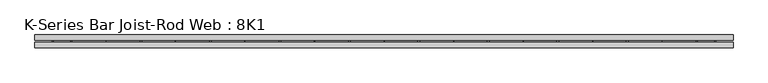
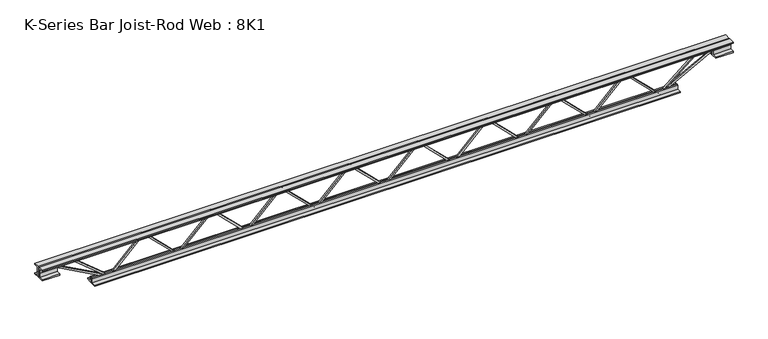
"""IFC4 building model written with IfcOpenShell, lengths in millimetres: beam geometry, K-Series Bar Joist-Rod Web : 8K1."""

from ifc_helpers import new_model, si_unit, frame, origin, place, context, project, spatial, polyline, outline, extrude, source, transform, mapped, element, save


def k_series_bar_joist_rod_web_8k1_ba0566a2(model_context):
    return source(origin(), model_context, "Body", "SweptSolid", [
        extrude(outline(polyline([(-90.4875, 796.4251012), (-100.0125, 796.4251012), (-100.0125, 801.5563895), (90.4875, 994.3126648), (90.4875, 996.7500882), (-100.0125, 1189.5063635), (-100.0125, 1194.6376518), (-90.4875, 1194.6376518), (-90.4875, 1193.4189401), (100.0125, 1000.6626648), (100.0125, 990.4000882), (-90.4875, 797.6438129), (-90.4875, 796.4251012)])), frame((0.0, -4.7625, 0.0), z_axis=(0.0, 1.0, 0.0), x_axis=(0.0, 0.0, 1.0)), (0.0, 0.0, 1.0), 9.525),
        extrude(outline(polyline([(-90.4875, 398.2125506), (-100.0125, 398.2125506), (-100.0125, 403.3438389), (90.4875, 596.1001142), (90.4875, 598.5375376), (-100.0125, 791.2938129), (-100.0125, 796.4251012), (-90.4875, 796.4251012), (-90.4875, 795.2063895), (100.0125, 602.4501142), (100.0125, 592.1875376), (-90.4875, 399.4312623), (-90.4875, 398.2125506)])), frame((0.0, -4.7625, 0.0), z_axis=(0.0, 1.0, 0.0), x_axis=(0.0, 0.0, 1.0)), (0.0, 0.0, 1.0), 9.525),
        extrude(outline(polyline([(-90.4875, 0.0), (-100.0125, 0.0), (-100.0125, 5.1312883), (90.4875, 197.8875636), (90.4875, 200.324987), (-100.0125, 393.0812623), (-100.0125, 398.2125506), (-90.4875, 398.2125506), (-90.4875, 396.9938389), (100.0125, 204.2375636), (100.0125, 193.974987), (-90.4875, 1.2187117), (-90.4875, 0.0)])), frame((0.0, -4.7625, 0.0), z_axis=(0.0, 1.0, 0.0), x_axis=(0.0, 0.0, 1.0)), (0.0, 0.0, 1.0), 9.525),
        extrude(outline(polyline([(-90.4875, -398.2125506), (-100.0125, -398.2125506), (-100.0125, -393.0812623), (90.4875, -200.324987), (90.4875, -197.8875636), (-100.0125, -5.1312883), (-100.0125, 0.0), (-90.4875, 0.0), (-90.4875, -1.2187117), (100.0125, -193.974987), (100.0125, -204.2375636), (-90.4875, -396.9938389), (-90.4875, -398.2125506)])), frame((0.0, -4.7625, 0.0), z_axis=(0.0, 1.0, 0.0), x_axis=(0.0, 0.0, 1.0)), (0.0, 0.0, 1.0), 9.525),
        extrude(outline(polyline([(-90.4875, -796.4251012), (-100.0125, -796.4251012), (-100.0125, -791.2938129), (90.4875, -598.5375376), (90.4875, -596.1001142), (-100.0125, -403.3438389), (-100.0125, -398.2125506), (-90.4875, -398.2125506), (-90.4875, -399.4312623), (100.0125, -592.1875376), (100.0125, -602.4501142), (-90.4875, -795.2063895), (-90.4875, -796.4251012)])), frame((0.0, -4.7625, 0.0), z_axis=(0.0, 1.0, 0.0), x_axis=(0.0, 0.0, 1.0)), (0.0, 0.0, 1.0), 9.525),
        extrude(outline(polyline([(-90.4875, -1194.6376518), (-100.0125, -1194.6376518), (-100.0125, -1189.5063635), (90.4875, -996.7500882), (90.4875, -994.3126648), (-100.0125, -801.5563895), (-100.0125, -796.4251012), (-90.4875, -796.4251012), (-90.4875, -797.6438129), (100.0125, -990.4000882), (100.0125, -1000.6626648), (-90.4875, -1193.4189401), (-90.4875, -1194.6376518)])), frame((0.0, -4.7625, 0.0), z_axis=(0.0, 1.0, 0.0), x_axis=(0.0, 0.0, 1.0)), (0.0, 0.0, 1.0), 9.525),
        extrude(outline(polyline([(-90.4875, 1194.6376518), (-100.0125, 1194.6376518), (-100.0125, 1199.7689401), (90.4875, 1392.5252154), (90.4875, 1394.9626388), (-100.0125, 1587.7189141), (-100.0125, 1592.8502024), (-90.4875, 1592.8502024), (-90.4875, 1591.6314907), (100.0125, 1398.8752154), (100.0125, 1388.6126388), (-90.4875, 1195.8563635), (-90.4875, 1194.6376518)])), frame((0.0, -4.7625, 0.0), z_axis=(0.0, 1.0, 0.0), x_axis=(0.0, 0.0, 1.0)), (0.0, 0.0, 1.0), 9.525),
        extrude(outline(polyline([(-90.4875, -1592.8502024), (-100.0125, -1592.8502024), (-100.0125, -1587.7189141), (90.4875, -1394.9626388), (90.4875, -1392.5252154), (-100.0125, -1199.7689401), (-100.0125, -1194.6376518), (-90.4875, -1194.6376518), (-90.4875, -1195.8563635), (100.0125, -1388.6126388), (100.0125, -1398.8752154), (-90.4875, -1591.6314907), (-90.4875, -1592.8502024)])), frame((0.0, -4.7625, 0.0), z_axis=(0.0, 1.0, 0.0), x_axis=(0.0, 0.0, 1.0)), (0.0, 0.0, 1.0), 9.525),
        extrude(outline(polyline([(4.7625, 101.6), (36.5125, 101.6), (36.5125, 95.25), (11.1125, 95.25), (11.1125, 69.85), (4.7625, 69.85), (4.7625, 101.6)])), frame((-1999.2502024, 0.0, 0.0), z_axis=(1.0, 0.0, 0.0), x_axis=(0.0, 1.0, 0.0)), (0.0, 0.0, 1.0), 3998.5004049),
        extrude(outline(polyline([(-4.7625, 101.6), (-4.7625, 69.85), (-11.1125, 69.85), (-11.1125, 95.25), (-36.5125, 95.25), (-36.5125, 101.6), (-4.7625, 101.6)])), frame((-1999.2502024, 0.0, 0.0), z_axis=(1.0, 0.0, 0.0), x_axis=(0.0, 1.0, 0.0)), (0.0, 0.0, 1.0), 3998.5004049),
        extrude(outline(polyline([(-4.7625, 38.1), (-36.5125, 38.1), (-36.5125, 44.45), (-11.1125, 44.45), (-11.1125, 69.85), (-4.7625, 69.85), (-4.7625, 38.1)])), frame((-1999.2502024, 0.0, 0.0), z_axis=(1.0, 0.0, 0.0), x_axis=(0.0, 1.0, 0.0)), (0.0, 0.0, 1.0), 101.6),
        extrude(outline(polyline([(36.5125, 38.1), (4.7625, 38.1), (4.7625, 69.85), (11.1125, 69.85), (11.1125, 44.45), (36.5125, 44.45), (36.5125, 38.1)])), frame((-1999.2502024, 0.0, 0.0), z_axis=(1.0, 0.0, 0.0), x_axis=(0.0, 1.0, 0.0)), (0.0, 0.0, 1.0), 101.6),
        extrude(outline(polyline([(4.7625, 38.1), (4.7625, 69.85), (11.1125, 69.85), (11.1125, 44.45), (36.5125, 44.45), (36.5125, 38.1), (4.7625, 38.1)])), frame((1897.6502024, 0.0, 0.0), z_axis=(1.0, 0.0, 0.0), x_axis=(0.0, 1.0, 0.0)), (0.0, 0.0, 1.0), 101.6),
        extrude(outline(polyline([(-4.7625, 38.1), (-36.5125, 38.1), (-36.5125, 44.45), (-11.1125, 44.45), (-11.1125, 69.85), (-4.7625, 69.85), (-4.7625, 38.1)])), frame((1897.6502024, 0.0, 0.0), z_axis=(1.0, 0.0, 0.0), x_axis=(0.0, 1.0, 0.0)), (0.0, 0.0, 1.0), 101.6),
        extrude(outline(polyline([(4.7625, -101.6), (4.7625, -69.85), (11.1125, -69.85), (11.1125, -95.25), (36.5125, -95.25), (36.5125, -101.6), (4.7625, -101.6)])), frame((-1694.4502024, 0.0, 0.0), z_axis=(1.0, 0.0, 0.0), x_axis=(0.0, 1.0, 0.0)), (0.0, 0.0, 1.0), 3388.9004049),
        extrude(outline(polyline([(-4.7625, -101.6), (-36.5125, -101.6), (-36.5125, -95.25), (-11.1125, -95.25), (-11.1125, -69.85), (-4.7625, -69.85), (-4.7625, -101.6)])), frame((-1694.4502024, 0.0, 0.0), z_axis=(1.0, 0.0, 0.0), x_axis=(0.0, 1.0, 0.0)), (0.0, 0.0, 1.0), 3388.9004049),
        extrude(outline(polyline([(0.0, -9.525), (0.0, 0.0), (346.6425392, 0.0), (346.6425392, -9.525), (0.0, -9.525)])), frame((-1899.9185009, 4.7625, 65.662372), z_axis=(0.47628314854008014, 0.0, 0.8792919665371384), x_axis=(0.8792919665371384, 0.0, -0.47628314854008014)), (0.0, 0.0, 1.0), 9.525),
        extrude(outline(polyline([(0.0, -9.525), (0.0, 0.0), (258.6528926, 0.0), (258.6528926, -9.525), (0.0, -9.525)])), frame((-1794.9964157, 4.7625, 66.1839144), z_axis=(0.6383071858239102, 0.0, 0.769781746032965), x_axis=(0.769781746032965, 0.0, -0.6383071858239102)), (0.0, 0.0, 1.0), 9.525),
        extrude(outline(polyline([(0.0, -9.525), (0.0, 0.0), (346.6425392, 0.0), (346.6425392, -9.525), (0.0, -9.525)])), frame((1899.9185009, -4.7625, 65.662372), z_axis=(-0.47628314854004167, 0.0, 0.8792919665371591), x_axis=(-0.8792919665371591, 0.0, -0.47628314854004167)), (0.0, 0.0, 1.0), 9.525),
        extrude(outline(polyline([(0.0, -9.525), (0.0, 0.0), (258.6528926, 0.0), (258.6528926, -9.525), (0.0, -9.525)])), frame((1794.9964157, -4.7625, 66.1839144), z_axis=(-0.638307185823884, 0.0, 0.7697817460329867), x_axis=(-0.7697817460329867, 0.0, -0.638307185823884)), (0.0, 0.0, 1.0), 9.525),
    ])


if __name__ == "__main__":
    model = new_model("IFC4")
    model_context = context("Model", 3, world=origin())
    ifc_project = project(units=[si_unit("LENGTHUNIT", "METRE", prefix="MILLI")], contexts=[model_context])
    site = spatial("IfcSite", under=ifc_project)
    building = spatial("IfcBuilding", under=site)
    placement = place(None, origin())
    k_series_bar_joist_rod_web_8k1_shape = k_series_bar_joist_rod_web_8k1_ba0566a2(model_context)
    element("IfcBeam", 1, ObjectType="K-Series Bar Joist-Rod Web : 8K1", at=placement, inside=building, context=model_context, shape_type="MappedRepresentation", body=[
        mapped(k_series_bar_joist_rod_web_8k1_shape, transform((0.0, 0.0, 0.0), x_axis=(1.0, 0.0, 0.0), y_axis=(0.0, 1.0, 0.0), z_axis=(0.0, 0.0, 1.0))),
    ])
    save(model, "model.ifc")
